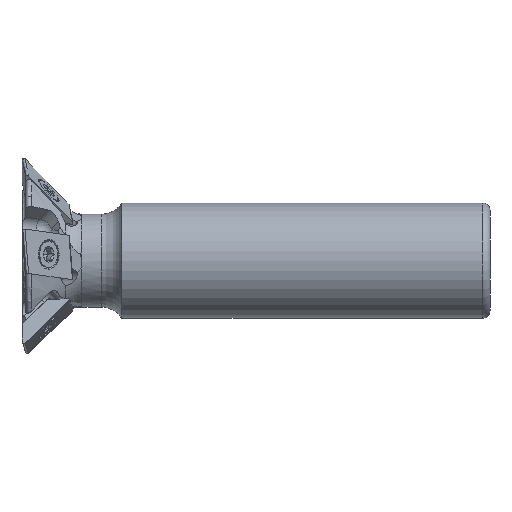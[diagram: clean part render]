
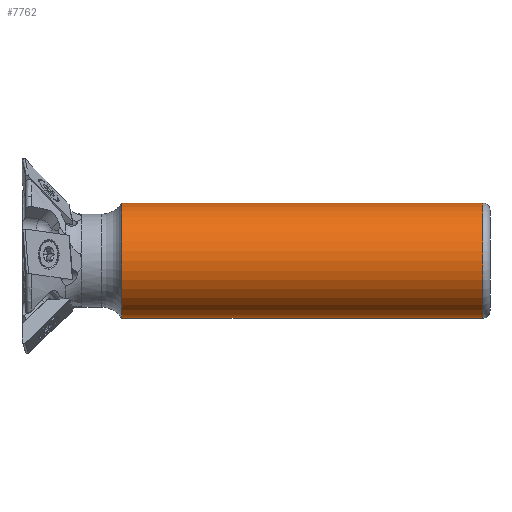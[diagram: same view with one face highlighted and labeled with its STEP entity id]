
A CAD part, front view. The second image highlights one B-rep face of the part: STEP entity #7762.
In plain terms, the highlighted cylindrical face has radius 12.5 mm (diameter 25 mm), a partial arc.
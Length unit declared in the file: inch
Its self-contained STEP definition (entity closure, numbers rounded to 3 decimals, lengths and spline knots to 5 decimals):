
#260 = VECTOR ( 'NONE', #5707, 39.37008 ) ;
#835 = FACE_OUTER_BOUND ( 'NONE', #11017, .T. ) ;
#1550 = CIRCLE ( 'NONE', #3080, 0.49213 ) ;
#2366 = VERTEX_POINT ( 'NONE', #7582 ) ;
#2368 = DIRECTION ( 'NONE',  ( 0., 0., 1. ) ) ;
#2575 = CARTESIAN_POINT ( 'NONE',  ( -0.0625, 0., -0.49213 ) ) ;
#2786 = CARTESIAN_POINT ( 'NONE',  ( -8.15333, 0., 0.49213 ) ) ;
#3080 = AXIS2_PLACEMENT_3D ( 'NONE', #7806, #11454, #2368 ) ;
#3853 = ORIENTED_EDGE ( 'NONE', *, *, #9940, .T. ) ;
#3944 = EDGE_CURVE ( 'NONE', #11181, #7449, #7571, .T. ) ;
#4122 = AXIS2_PLACEMENT_3D ( 'NONE', #7513, #7459, #6514 ) ;
#4377 = CARTESIAN_POINT ( 'NONE',  ( -0.0625, 0., 0.49213 ) ) ;
#4980 = CIRCLE ( 'NONE', #11095, 0.49213 ) ;
#5013 = ORIENTED_EDGE ( 'NONE', *, *, #3944, .F. ) ;
#5707 = DIRECTION ( 'NONE',  ( -1., 0., 0. ) ) ;
#6514 = DIRECTION ( 'NONE',  ( 0., 0., 1. ) ) ;
#6577 = EDGE_CURVE ( 'NONE', #11172, #2366, #9231, .T. ) ;
#6592 = CARTESIAN_POINT ( 'NONE',  ( -3.15, 0., 0. ) ) ;
#6928 = ORIENTED_EDGE ( 'NONE', *, *, #6577, .T. ) ;
#7449 = VERTEX_POINT ( 'NONE', #9637 ) ;
#7459 = DIRECTION ( 'NONE',  ( -1., 0., 0. ) ) ;
#7513 = CARTESIAN_POINT ( 'NONE',  ( -8.15333, 0., 0. ) ) ;
#7571 = LINE ( 'NONE', #10196, #8157 ) ;
#7582 = CARTESIAN_POINT ( 'NONE',  ( -3.15, 0., 0.49213 ) ) ;
#7762 = ADVANCED_FACE ( 'NONE', ( #835 ), #10988, .T. ) ;
#7806 = CARTESIAN_POINT ( 'NONE',  ( -0.0625, 0., 0. ) ) ;
#8157 = VECTOR ( 'NONE', #9198, 39.37008 ) ;
#8263 = ORIENTED_EDGE ( 'NONE', *, *, #10623, .F. ) ;
#8621 = DIRECTION ( 'NONE',  ( -1., 0., 0. ) ) ;
#9198 = DIRECTION ( 'NONE',  ( -1., 0., 0. ) ) ;
#9231 = LINE ( 'NONE', #2786, #260 ) ;
#9637 = CARTESIAN_POINT ( 'NONE',  ( -3.15, 0., -0.49213 ) ) ;
#9940 = EDGE_CURVE ( 'NONE', #11181, #11172, #1550, .T. ) ;
#10196 = CARTESIAN_POINT ( 'NONE',  ( -8.15333, 0., -0.49213 ) ) ;
#10623 = EDGE_CURVE ( 'NONE', #7449, #2366, #4980, .T. ) ;
#10988 = CYLINDRICAL_SURFACE ( 'NONE', #4122, 0.49213 ) ;
#11017 = EDGE_LOOP ( 'NONE', ( #5013, #3853, #6928, #8263 ) ) ;
#11095 = AXIS2_PLACEMENT_3D ( 'NONE', #6592, #8621, #11368 ) ;
#11172 = VERTEX_POINT ( 'NONE', #4377 ) ;
#11181 = VERTEX_POINT ( 'NONE', #2575 ) ;
#11368 = DIRECTION ( 'NONE',  ( 0., 0., 1. ) ) ;
#11454 = DIRECTION ( 'NONE',  ( -1., 0., 0. ) ) ;
